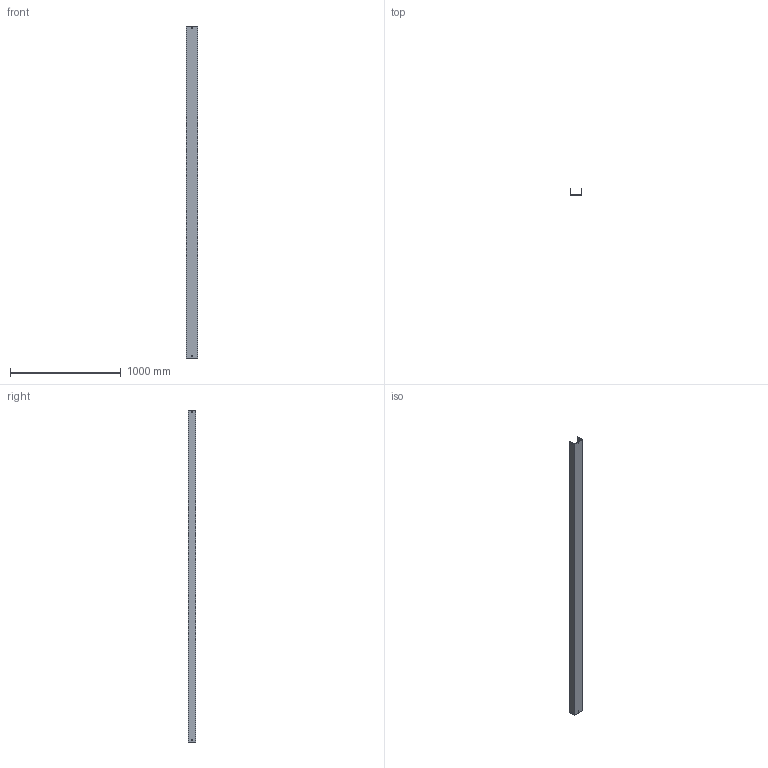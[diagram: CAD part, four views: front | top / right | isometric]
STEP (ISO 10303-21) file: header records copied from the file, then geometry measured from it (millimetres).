
FILE_DESCRIPTION (( 'STEP AP214' ), '1' );
FILE_NAME ('03B3H100.step', '2025-02-21T10:18:03', ( '' ), ( '' ), 'SwSTEP 2.0', 'SolidWorks 2023', '' );
FILE_SCHEMA (( 'AUTOMOTIVE_DESIGN' ));
Length unit declared in the file: millimetre
Products named in the file (1): 03B3H100
Bounding box: 104 x 65.5 x 3000 mm (x, y, z)
Volume: 2392610.5 mm3; surface area: 1390495 mm2
Topology: 1 solids, 1 shells, 34 faces, 96 edges, 64 vertices
Faces by surface type: plane 34
Entity records: 1127 total; most frequent: CARTESIAN_POINT 195, ORIENTED_EDGE 192, DIRECTION 166, EDGE_CURVE 96, LINE 96, VECTOR 96, VERTEX_POINT 64, EDGE_LOOP 46
